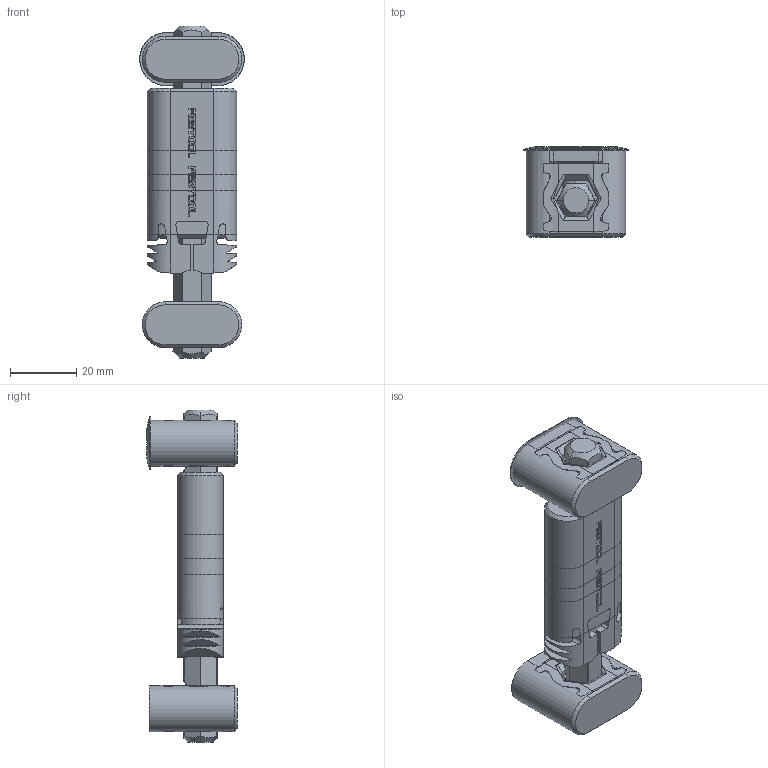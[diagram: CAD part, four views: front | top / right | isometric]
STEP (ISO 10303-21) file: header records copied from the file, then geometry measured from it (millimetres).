
FILE_DESCRIPTION(('Creo Elements/Direct Modeling STEP Export'),'2;1');
FILE_NAME('2019_05_20_FESTOOL-D14-Verbinder_komplett.stp','2019-05-20T10:32:15',(''),(''),'Creo Elements/Direct Modeling STEP processor for AP214 (Solid Model)','Creo Elements/Direct Modeling 20.0C 26-Jan-2018 (C) Parametric Technology GmbH','');
FILE_SCHEMA(('AUTOMOTIVE_DESIGN { 1 0 10303 214 1 1 1 1 }'));
Length unit declared in the file: millimetre
Products named in the file (13): FESTOOL_D14-Queranker_cross-anchor2; FESTOOL_D14-Einzelbolzen_single-headed SV; FESTOOL_D14-Queranker_cross-anchor.1; FESTOOL_D14-Flächenverbindung_surface-connector; FESTOOL_D14-Queranker+Verbreiterung_cross-anchor+extension2; FESTOOL_D14-Queranker+Verbreiterung_cross-anchor+extension.1; FESTOOL_D14-Flächenverbindung+Verbreiterung_surface-connector+extens
ion; FESTOOL_D14-Ankerbolzen_anchor-bolt; FESTOOL_D14-Abdeckkappe_cover-cap; FESTOOL_D14-Queranker_cross-anchor; FESTOOL_D14-Spreizanker_split-anchor; FESTOOL_D14-Eckverbindung_corner-connector
Assembly tree (10 placements, depth 2):
  FESTOOL_D14-Flächenverbindung_surface-connector
    FESTOOL_D14-Queranker_cross-anchor.1
    FESTOOL_D14-Einzelbolzen_single-headed SV
    FESTOOL_D14-Queranker_cross-anchor2
  FESTOOL_D14-Flächenverbindung+Verbreiterung_surface-connector+extens
ion
    FESTOOL_D14-Queranker+Verbreiterung_cross-anchor+extension.1
    FESTOOL_D14-Einzelbolzen_single-headed SV
    FESTOOL_D14-Queranker+Verbreiterung_cross-anchor+extension2
  FESTOOL_D14-Eckverbindung_corner-connector
    FESTOOL_D14-Spreizanker_split-anchor
    FESTOOL_D14-Queranker_cross-anchor
    FESTOOL_D14-Abdeckkappe_cover-cap
    FESTOOL_D14-Ankerbolzen_anchor-bolt
Bounding box: 31.5 x 27.21 x 100 mm (x, y, z)
Volume: 79923.6 mm3; surface area: 33146.8 mm2
Topology: 10 solids, 10 shells, 1652 faces, 4499 edges, 2958 vertices
Faces by surface type: plane 852, cylinder 697, cone 55, torus 18, extrusion 18, bspline 12
Entity records: 64789 total; most frequent: CARTESIAN_POINT 14768, ORIENTED_EDGE 8998, DIRECTION 8606, EDGE_CURVE 4499, AXIS2_PLACEMENT_3D 3002, VERTEX_POINT 2958, VECTOR 2602, LINE 2584
